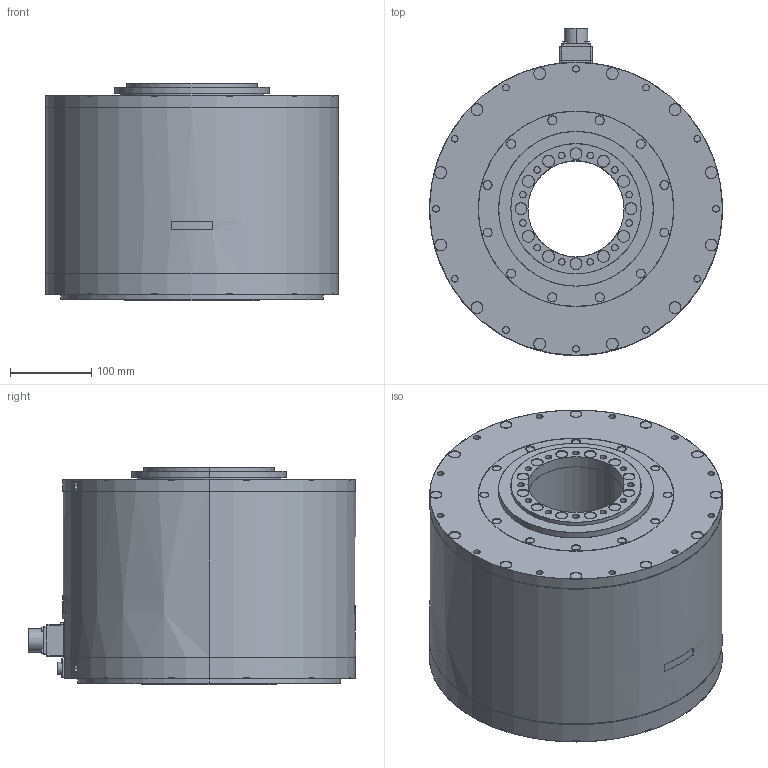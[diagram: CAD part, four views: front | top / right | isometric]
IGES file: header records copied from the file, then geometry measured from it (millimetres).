
Start section: SolidWorks IGES file using analytic representation for surfaces
Bounding box: 360 x 402.1 x 267.5 mm (x, y, z)
Surface area: 626707.7 mm2 (no closed solid volume)
Topology: 0 solids, 0 shells, 540 faces, 11852 edges, 11852 vertices
Faces by surface type: revolution 326, bspline 214
